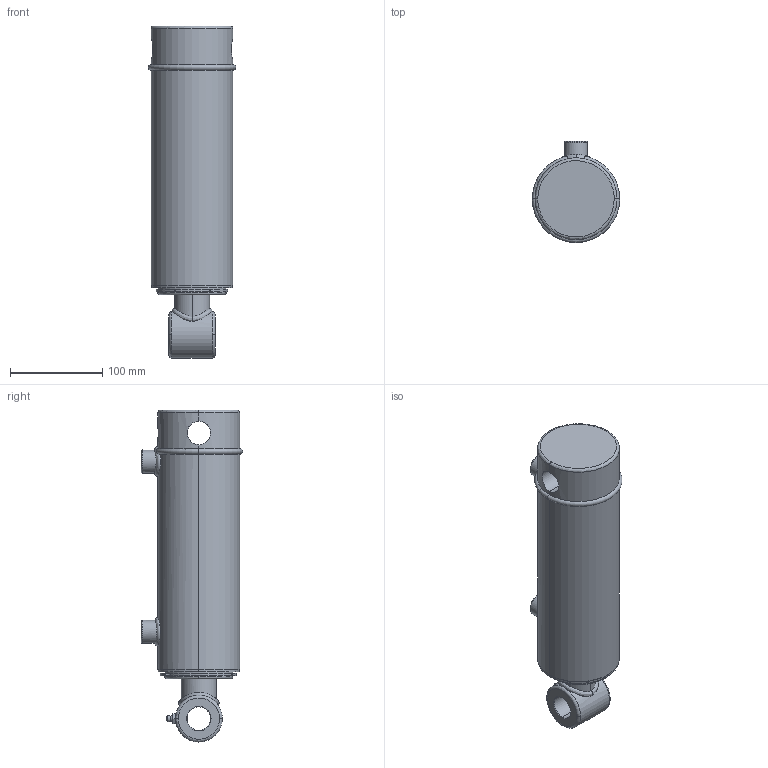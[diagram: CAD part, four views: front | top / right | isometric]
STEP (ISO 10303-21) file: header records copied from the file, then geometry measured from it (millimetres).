
FILE_DESCRIPTION (( 'STEP AP203' ), '1' );
FILE_NAME ('SB-C3001550x152 (6).STEP', '2014-11-19T03:18:26', ( '' ), ( '' ), 'SwSTEP 2.0', 'SolidWorks 2014', '' );
FILE_SCHEMA (( 'CONFIG_CONTROL_DESIGN' ));
Length unit declared in the file: millimetre
Products named in the file (7): SB-C3001550x152 (6); SB-C3001550x152 (6) body; 6 SPARE; 18 NPT GREASE NIPPLE; SPARE 6; SB-C300150x152 (6) BODY; 3 inch circlip
Assembly tree (6 placements, depth 3):
  SB-C3001550x152 (6)
    SB-C3001550x152 (6) body
      SB-C300150x152 (6) BODY
      3 inch circlip
    SPARE 6
      6 SPARE
      18 NPT GREASE NIPPLE
Bounding box: 94.9 x 109.9 x 360.4 mm (x, y, z)
Volume: 1832631.4 mm3; surface area: 184569.8 mm2
Topology: 4 solids, 4 shells, 133 faces, 306 edges, 190 vertices
Faces by surface type: cylinder 51, plane 29, cone 22, bspline 18, torus 11, sphere 2
Entity records: 10452 total; most frequent: CARTESIAN_POINT 6772, DIRECTION 638, ORIENTED_EDGE 604, EDGE_CURVE 302, AXIS2_PLACEMENT_3D 270, VERTEX_POINT 190, EDGE_LOOP 158, CIRCLE 144
